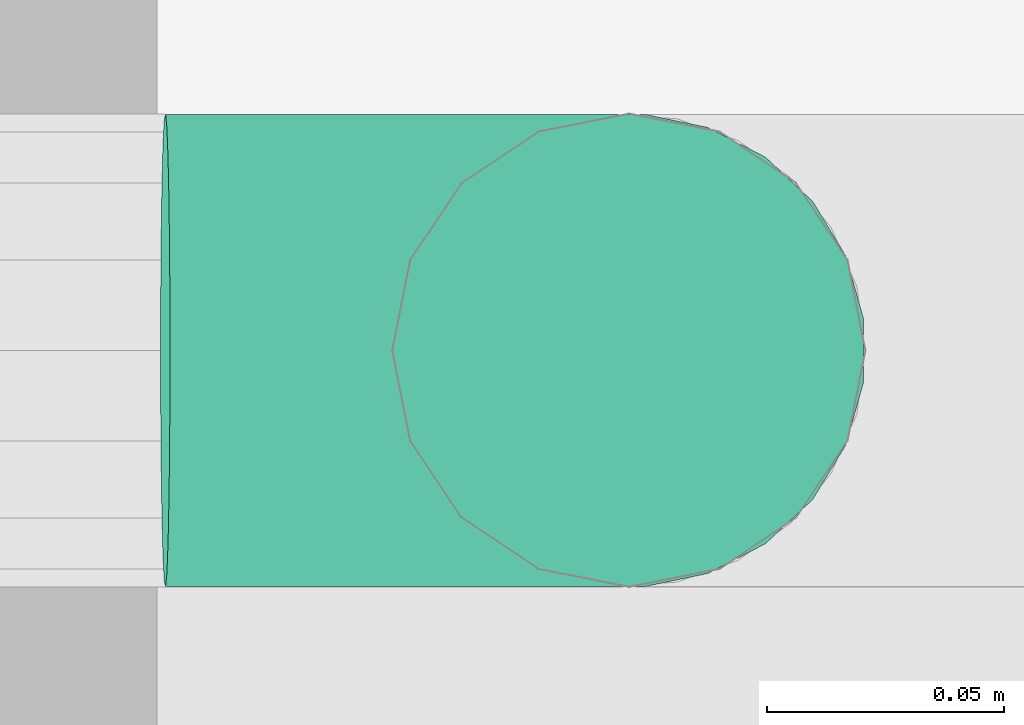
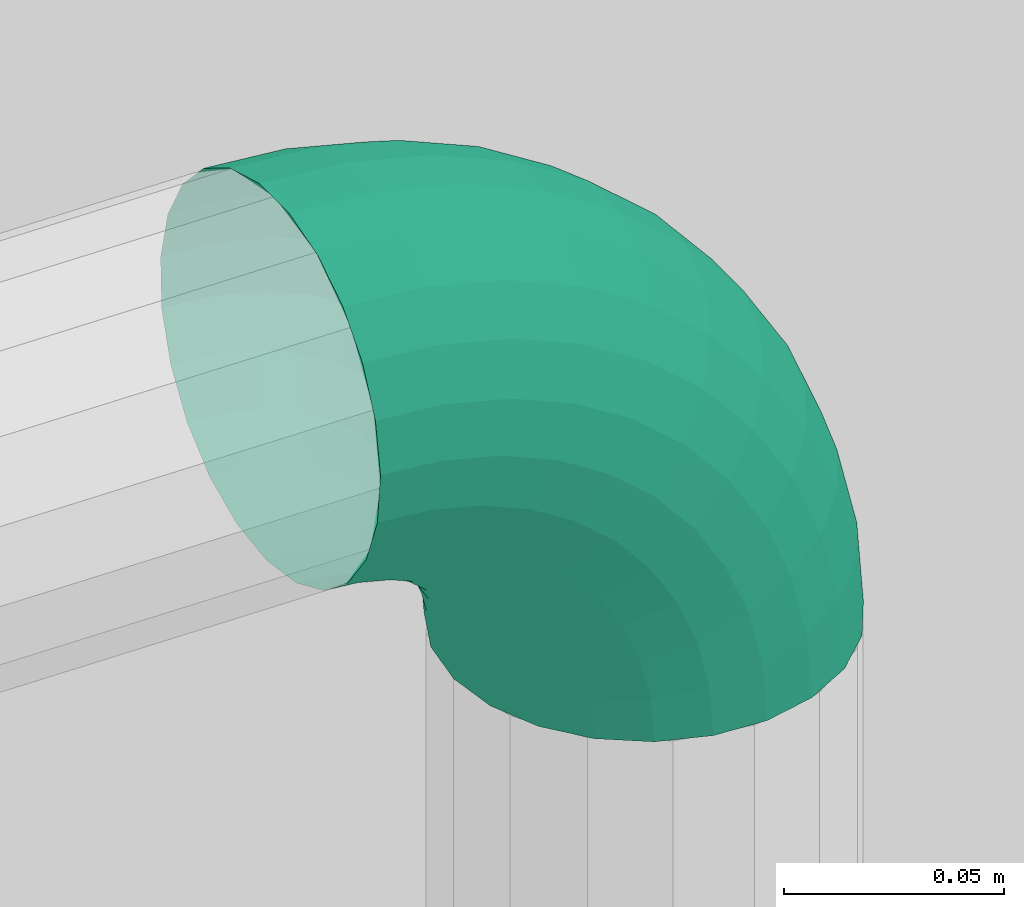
# One storey, part 90 of 106: 1 flow fitting.
"""IFC2X3 building model written with IfcOpenShell, lengths in metres."""

import ifcopenshell
import ifcopenshell.guid

model = None  # the IFC model being written
_history = None  # IfcOwnerHistory: only IFC2X3 demands one
_inside = {}  # id of a spatial element -> (the spatial element, [elements in it])
_under = {}  # id of a project, library or spatial element -> (it, [spatial elements below it])
_declared = {}  # id of a project -> (the project, [libraries it declares])
_typed = {}  # id of a type object -> (the type object, [elements of that type])
_made_of = {}  # id of a material, layer set ... -> (it, [elements and type objects made of it])


def new_model(schema):
    """Start an empty IFC model of exactly this schema.

    Asked for "IFC4X3", IfcOpenShell would pick the latest addendum, in which some entities
    have other attributes; the version numbers below select the first issue.
    IFC2X3 requires an IfcOwnerHistory on every rooted entity: one is made here for all.
    """
    global model, _history
    if schema == "IFC4X3":
        model = ifcopenshell.file(schema_version=(4, 3, 0, 0))
    else:
        model = ifcopenshell.file(schema=schema)
    _inside.clear()
    _under.clear()
    _declared.clear()
    _typed.clear()
    _made_of.clear()
    _history = None
    if model.schema == "IFC2X3":
        org = make("IfcOrganization", Name="unknown")
        user = make(
            "IfcPersonAndOrganization",
            ThePerson=make("IfcPerson", FamilyName="unknown"),
            TheOrganization=org,
        )
        app = make(
            "IfcApplication",
            ApplicationDeveloper=org,
            Version="unknown",
            ApplicationFullName="unknown",
            ApplicationIdentifier="unknown",
        )
        _history = make(
            "IfcOwnerHistory",
            OwningUser=user,
            OwningApplication=app,
            ChangeAction="ADDED",
            CreationDate=0,
        )
    return model


def make(cls, **values):
    """One entity of the class cls with the attributes given. An attribute that is None is left unset."""
    return model.create_entity(
        cls, **{name: value for name, value in values.items() if value is not None}
    )


def entity(cls, *values):
    """Any entity or typed value of the class cls, its attributes in the order of the schema. None: left unset."""
    e = model.create_entity(cls)
    for i, value in enumerate(values):
        if value is not None:
            e[i] = value
    return e


def rooted(cls, **values):
    """An entity with a GlobalId (a new one), such as an element, a storey or a relation."""
    return make(cls, GlobalId=ifcopenshell.guid.new(), OwnerHistory=_history, **values)


def si_unit(unit_type, name, prefix=None):
    """IfcSIUnit, for example si_unit("LENGTHUNIT", "METRE", prefix="MILLI")."""
    return make("IfcSIUnit", UnitType=unit_type, Prefix=prefix, Name=name)


def converted_unit(unit_type, name, factor, base, dimensions=None, offset=None):
    """IfcConversionBasedUnit, such as the inch: factor (a typed value) times the base unit."""
    return make(
        "IfcConversionBasedUnit"
        if offset is None
        else "IfcConversionBasedUnitWithOffset",
        ConversionOffset=offset,
        Dimensions=None
        if dimensions is None
        else entity("IfcDimensionalExponents", *dimensions),
        UnitType=unit_type,
        Name=name,
        ConversionFactor=make(
            "IfcMeasureWithUnit", ValueComponent=factor, UnitComponent=base
        ),
    )


def derived_unit(unit_type, elements):
    """IfcDerivedUnit: a product of units, each with its exponent."""
    return make(
        "IfcDerivedUnit",
        Elements=[
            make("IfcDerivedUnitElement", Unit=unit, Exponent=power)
            for unit, power in elements
        ],
        UnitType=unit_type,
    )


def money_unit(currency):
    """IfcMonetaryUnit."""
    return make("IfcMonetaryUnit", Currency=currency)


def assignment(units):
    """IfcUnitAssignment: the units of a project."""
    return None if units is None else make("IfcUnitAssignment", Units=units)


def point(xyz):
    """IfcCartesianPoint."""
    return None if xyz is None else make("IfcCartesianPoint", Coordinates=xyz)


def direction(xyz):
    """IfcDirection."""
    return None if xyz is None else make("IfcDirection", DirectionRatios=xyz)


def frame(location, z_axis=None, x_axis=None):
    """IfcAxis2Placement3D, a coordinate frame: its origin and axes. An axis left out is left unset."""
    return make(
        "IfcAxis2Placement3D",
        Location=point(location),
        Axis=direction(z_axis),
        RefDirection=direction(x_axis),
    )


def origin_with_axes():
    """The frame at (0, 0, 0) with the z axis (0, 0, 1) and the x axis (1, 0, 0) written out."""
    return frame((0.0, 0.0, 0.0), z_axis=(0.0, 0.0, 1.0), x_axis=(1.0, 0.0, 0.0))


def place(relative_to, where):
    """IfcLocalPlacement: puts the frame where relative to a parent placement (None: the world)."""
    return make(
        "IfcLocalPlacement", PlacementRelTo=relative_to, RelativePlacement=where
    )


def context(
    kind, dimensions, precision=None, world=None, true_north=None, identifier=None
):
    """IfcGeometricRepresentationContext, for example the 3D "Model" context."""
    return make(
        "IfcGeometricRepresentationContext",
        ContextIdentifier=identifier,
        ContextType=kind,
        CoordinateSpaceDimension=dimensions,
        Precision=precision,
        WorldCoordinateSystem=world,
        TrueNorth=true_north,
    )


def subcontext(parent, identifier, kind, view, scale=None):
    """IfcGeometricRepresentationSubContext, for example "Body" below "Model"."""
    return make(
        "IfcGeometricRepresentationSubContext",
        ContextIdentifier=identifier,
        ContextType=kind,
        ParentContext=parent,
        TargetScale=scale,
        TargetView=view,
    )


def project(units=None, contexts=None):
    """IfcProject with its units and contexts."""
    return rooted(
        "IfcProject",
        Name="project",
        RepresentationContexts=contexts,
        UnitsInContext=assignment(units),
    )


def spatial(cls, under=None, at=None, **own):
    """A site, building, storey or space (cls), placed at a placement, below another one or the project."""
    s = rooted(cls, ObjectPlacement=at, **own)
    if under is not None:
        _under.setdefault(under.id(), (under, []))[1].append(s)
    return s


def faces_of(points, faces, orient=None, outer=None):
    """IfcFace entities. A face is a list of loops; a loop is a list of indices into points, from 0.

    orient and outer hold one flag for each loop. By default every Orientation is true, the
    first loop of a face is its IfcFaceOuterBound and the others are IfcFaceBound.
    """
    made = []
    for i, loops in enumerate(faces):
        bounds = []
        for j, loop in enumerate(loops):
            is_outer = j == 0 if outer is None else outer[i][j]
            bounds.append(
                make(
                    "IfcFaceOuterBound" if is_outer else "IfcFaceBound",
                    Bound=make("IfcPolyLoop", Polygon=[points[k] for k in loop]),
                    Orientation=True if orient is None else orient[i][j],
                )
            )
        made.append(make("IfcFace", Bounds=bounds))
    return made


def open_shell(faces, orient=None, outer=None):
    """The faces of one IfcOpenShell. surface_model builds it on its shared points."""
    return ("IfcOpenShell", faces, orient, outer)


def surface_model(cls, points, shells):
    """IfcFaceBasedSurfaceModel or IfcShellBasedSurfaceModel (cls): surfaces that need not close."""
    shared = [point(p) for p in points]
    made = [make(c, CfsFaces=faces_of(shared, fs, o, b)) for c, fs, o, b in shells]
    if cls == "IfcFaceBasedSurfaceModel":
        return make(cls, FbsmFaces=made)
    return make(cls, SbsmBoundary=made)


def shape(context_of_items, identifier, shape_type, items):
    """IfcShapeRepresentation: the items that make up one representation, for example the "Body"."""
    return make(
        "IfcShapeRepresentation",
        ContextOfItems=context_of_items,
        RepresentationIdentifier=identifier,
        RepresentationType=shape_type,
        Items=items,
    )


def material(Name=None, Category=None):
    """IfcMaterial."""
    return make("IfcMaterial", Name=Name, Category=Category)


def made_of(thing, what):
    """Note that an element or type object is made of a material, layer set ...; save() writes the relation."""
    if what is not None:
        _made_of.setdefault(what.id(), (what, []))[1].append(thing)
    return thing


def type_object(cls, material=None, **own):
    """A type object (cls), such as IfcWallType, which elements share."""
    return made_of(rooted(cls, **own), material)


def element(
    cls,
    number,
    at=None,
    inside=None,
    cuts=None,
    type_object=None,
    material=None,
    context=None,
    identifier="Body",
    shape_type=None,
    held_by="IfcProductDefinitionShape",
    body=None,
    shapes=None,
    **own,
):
    """One element of the class cls, such as IfcWall. Its Tag is "e" and its number.

    at: its placement. inside: the storey or other place that contains it. cuts: it is an
    opening in that element (IfcRelVoidsElement). A single representation is given by context,
    identifier, shape_type and body (its items); several are given by shapes. held_by: the class
    of the entity that holds the representations. save() writes the other relations.
    """
    e = rooted(cls, Tag="e%d" % number, ObjectPlacement=at, **own)
    if body is not None:
        shapes = [shape(context, identifier, shape_type, body)]
    if shapes is not None:
        e.Representation = make(held_by, Representations=shapes)
    if inside is not None:
        _inside.setdefault(inside.id(), (inside, []))[1].append(e)
    if cuts is not None:
        rooted(
            "IfcRelVoidsElement", RelatingBuildingElement=cuts, RelatedOpeningElement=e
        )
    if type_object is not None:
        _typed.setdefault(type_object.id(), (type_object, []))[1].append(e)
    return made_of(e, material)


def aggregate(whole, parts):
    """IfcRelAggregates: a whole, such as a stair, and the parts it consists of."""
    return rooted("IfcRelAggregates", RelatingObject=whole, RelatedObjects=parts)


def save(model, path):
    """Write the relations noted so far, then the file.

    IfcRelAggregates (storeys below a building ...), IfcRelContainedInSpatialStructure (elements
    in a storey), IfcRelDefinesByType, IfcRelAssociatesMaterial and IfcRelDeclares: one each for
    every whole, place, type object, material and project.
    """
    for whole, parts in _under.values():
        aggregate(whole, parts)
    for where, things in _inside.values():
        rooted(
            "IfcRelContainedInSpatialStructure",
            RelatedElements=things,
            RelatingStructure=where,
        )
    for kind, things in _typed.values():
        rooted("IfcRelDefinesByType", RelatedObjects=things, RelatingType=kind)
    for what, things in _made_of.values():
        rooted("IfcRelAssociatesMaterial", RelatedObjects=things, RelatingMaterial=what)
    for by, libraries in _declared.values():
        rooted("IfcRelDeclares", RelatingContext=by, RelatedDefinitions=libraries)
    model.write(path)


model = new_model("IFC2X3")

# Units and contexts
model_context = context("Model", 3, precision=1e-05, world=origin_with_axes(), true_north=direction((0.0, 1.0)))
body_context = subcontext(model_context, "Body", "Model", "MODEL_VIEW", scale=1.0)
ifc_project = project(units=[si_unit("LENGTHUNIT", "METRE"), si_unit("AREAUNIT", "SQUARE_METRE"), si_unit("VOLUMEUNIT", "CUBIC_METRE"), si_unit("ABSORBEDDOSEUNIT", "GRAY"), si_unit("AMOUNTOFSUBSTANCEUNIT", "MOLE"), si_unit("DOSEEQUIVALENTUNIT", "SIEVERT"), si_unit("ELECTRICCAPACITANCEUNIT", "FARAD"), si_unit("ELECTRICCHARGEUNIT", "COULOMB"), si_unit("ELECTRICCONDUCTANCEUNIT", "SIEMENS"), si_unit("ELECTRICCURRENTUNIT", "AMPERE"), si_unit("ELECTRICRESISTANCEUNIT", "OHM"), si_unit("ELECTRICVOLTAGEUNIT", "VOLT"), si_unit("ENERGYUNIT", "JOULE"), si_unit("FORCEUNIT", "NEWTON"), si_unit("FREQUENCYUNIT", "HERTZ"), si_unit("ILLUMINANCEUNIT", "LUX"), si_unit("INDUCTANCEUNIT", "HENRY"), si_unit("LUMINOUSFLUXUNIT", "LUMEN"), si_unit("LUMINOUSINTENSITYUNIT", "CANDELA"), si_unit("MAGNETICFLUXDENSITYUNIT", "TESLA"), si_unit("MAGNETICFLUXUNIT", "WEBER"), si_unit("MASSUNIT", "GRAM"), converted_unit("PLANEANGLEUNIT", "degree", entity("IfcReal", 0.0174532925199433), si_unit("PLANEANGLEUNIT", "RADIAN"), dimensions=[0, 0, 0, 0, 0, 0, 0]), si_unit("POWERUNIT", "WATT"), si_unit("PRESSUREUNIT", "PASCAL"), si_unit("RADIOACTIVITYUNIT", "BECQUEREL"), si_unit("SOLIDANGLEUNIT", "STERADIAN"), si_unit("THERMODYNAMICTEMPERATUREUNIT", "KELVIN"), si_unit("TIMEUNIT", "SECOND"), derived_unit("ACCELERATIONUNIT", [(si_unit("LENGTHUNIT", "METRE"), 1), (si_unit("TIMEUNIT", "SECOND"), -2)]), derived_unit("ANGULARVELOCITYUNIT", [(converted_unit("PLANEANGLEUNIT", "degree", entity("IfcReal", 0.0174532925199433), si_unit("PLANEANGLEUNIT", "RADIAN"), dimensions=[0, 0, 0, 0, 0, 0, 0]), 1), (si_unit("TIMEUNIT", "SECOND"), -1)]), derived_unit("CURVATUREUNIT", [(converted_unit("PLANEANGLEUNIT", "degree", entity("IfcReal", 0.0174532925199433), si_unit("PLANEANGLEUNIT", "RADIAN"), dimensions=[0, 0, 0, 0, 0, 0, 0]), 1), (si_unit("LENGTHUNIT", "METRE"), -1)]), derived_unit("DYNAMICVISCOSITYUNIT", [(si_unit("PRESSUREUNIT", "PASCAL"), 1), (si_unit("TIMEUNIT", "SECOND"), 1)]), derived_unit("HEATFLUXDENSITYUNIT", [(si_unit("POWERUNIT", "WATT"), 1), (si_unit("LENGTHUNIT", "METRE"), -2)]), derived_unit("HEATINGVALUEUNIT", [(si_unit("ENERGYUNIT", "JOULE"), 1), (si_unit("MASSUNIT", "GRAM"), -1)]), derived_unit("INTEGERCOUNTRATEUNIT", [(si_unit("TIMEUNIT", "SECOND"), -1)]), derived_unit("IONCONCENTRATIONUNIT", [(si_unit("MASSUNIT", "GRAM"), 1), (si_unit("VOLUMEUNIT", "CUBIC_METRE"), -1)]), derived_unit("ISOTHERMALMOISTURECAPACITYUNIT", [(si_unit("VOLUMEUNIT", "CUBIC_METRE"), 1), (si_unit("MASSUNIT", "GRAM"), -1)]), derived_unit("KINEMATICVISCOSITYUNIT", [(si_unit("AREAUNIT", "SQUARE_METRE"), 1), (si_unit("TIMEUNIT", "SECOND"), -1)]), derived_unit("LINEARFORCEUNIT", [(si_unit("FORCEUNIT", "NEWTON"), 1), (si_unit("LENGTHUNIT", "METRE"), -1)]), derived_unit("LINEARMOMENTUNIT", [(si_unit("FORCEUNIT", "NEWTON"), 1), (si_unit("LENGTHUNIT", "METRE"), -1)]), derived_unit("LINEARSTIFFNESSUNIT", [(si_unit("FORCEUNIT", "NEWTON"), 1), (si_unit("LENGTHUNIT", "METRE"), -1)]), derived_unit("LINEARVELOCITYUNIT", [(si_unit("LENGTHUNIT", "METRE"), 1), (si_unit("TIMEUNIT", "SECOND"), -1)]), derived_unit("LUMINOUSINTENSITYDISTRIBUTIONUNIT", [(si_unit("LUMINOUSINTENSITYUNIT", "CANDELA"), 1), (si_unit("LUMINOUSFLUXUNIT", "LUMEN"), -1)]), derived_unit("MASSDENSITYUNIT", [(si_unit("MASSUNIT", "GRAM"), 1), (si_unit("VOLUMEUNIT", "CUBIC_METRE"), -1)]), derived_unit("MASSFLOWRATEUNIT", [(si_unit("MASSUNIT", "GRAM"), 1), (si_unit("TIMEUNIT", "SECOND"), -1)]), derived_unit("MASSPERLENGTHUNIT", [(si_unit("MASSUNIT", "GRAM"), 1), (si_unit("LENGTHUNIT", "METRE"), -1)]), derived_unit("MODULUSOFELASTICITYUNIT", [(si_unit("FORCEUNIT", "NEWTON"), 1), (si_unit("AREAUNIT", "SQUARE_METRE"), -1)]), derived_unit("MODULUSOFLINEARSUBGRADEREACTIONUNIT", [(si_unit("FORCEUNIT", "NEWTON"), 1), (si_unit("LENGTHUNIT", "METRE"), -2)]), derived_unit("MODULUSOFROTATIONALSUBGRADEREACTIONUNIT", [(si_unit("FORCEUNIT", "NEWTON"), 1), (si_unit("LENGTHUNIT", "METRE"), 1)]), derived_unit("MODULUSOFSUBGRADEREACTIONUNIT", [(si_unit("FORCEUNIT", "NEWTON"), 1), (si_unit("VOLUMEUNIT", "CUBIC_METRE"), -1)]), derived_unit("MOISTUREDIFFUSIVITYUNIT", [(si_unit("VOLUMEUNIT", "CUBIC_METRE"), 1), (si_unit("TIMEUNIT", "SECOND"), -1)]), derived_unit("MOLECULARWEIGHTUNIT", [(si_unit("MASSUNIT", "GRAM"), 1), (si_unit("AMOUNTOFSUBSTANCEUNIT", "MOLE"), -1)]), derived_unit("PLANARFORCEUNIT", [(si_unit("FORCEUNIT", "NEWTON"), 1), (si_unit("LENGTHUNIT", "METRE"), -2)]), derived_unit("ROTATIONALFREQUENCYUNIT", [(si_unit("TIMEUNIT", "SECOND"), -1)]), derived_unit("ROTATIONALMASSUNIT", [(si_unit("MASSUNIT", "GRAM"), 1), (si_unit("LENGTHUNIT", "METRE"), 2)]), derived_unit("ROTATIONALSTIFFNESSUNIT", [(si_unit("FORCEUNIT", "NEWTON"), 1), (si_unit("LENGTHUNIT", "METRE"), 1), (converted_unit("PLANEANGLEUNIT", "degree", entity("IfcReal", 0.0174532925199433), si_unit("PLANEANGLEUNIT", "RADIAN"), dimensions=[0, 0, 0, 0, 0, 0, 0]), -1)]), derived_unit("SECTIONAREAINTEGRALUNIT", [(si_unit("LENGTHUNIT", "METRE"), 5)]), derived_unit("SECTIONMODULUSUNIT", [(si_unit("LENGTHUNIT", "METRE"), 3)]), derived_unit("SHEARMODULUSUNIT", [(si_unit("FORCEUNIT", "NEWTON"), 1), (si_unit("AREAUNIT", "SQUARE_METRE"), -1)]), derived_unit("SOUNDPOWERUNIT", [(si_unit("ENERGYUNIT", "JOULE"), 1), (si_unit("TIMEUNIT", "SECOND"), -1)]), derived_unit("SPECIFICHEATCAPACITYUNIT", [(si_unit("FORCEUNIT", "NEWTON"), 1), (si_unit("MASSUNIT", "GRAM"), -1), (si_unit("THERMODYNAMICTEMPERATUREUNIT", "KELVIN"), -1)]), derived_unit("TEMPERATUREGRADIENTUNIT", [(si_unit("THERMODYNAMICTEMPERATUREUNIT", "KELVIN"), 1), (si_unit("LENGTHUNIT", "METRE"), -1)]), derived_unit("THERMALADMITTANCEUNIT", [(si_unit("POWERUNIT", "WATT"), 1), (si_unit("AREAUNIT", "SQUARE_METRE"), -1), (si_unit("THERMODYNAMICTEMPERATUREUNIT", "KELVIN"), -1)]), derived_unit("THERMALCONDUCTANCEUNIT", [(si_unit("POWERUNIT", "WATT"), 1), (si_unit("LENGTHUNIT", "METRE"), -1), (si_unit("THERMODYNAMICTEMPERATUREUNIT", "KELVIN"), -1)]), derived_unit("THERMALEXPANSIONCOEFFICIENTUNIT", [(si_unit("THERMODYNAMICTEMPERATUREUNIT", "KELVIN"), -1)]), derived_unit("THERMALRESISTANCEUNIT", [(si_unit("AREAUNIT", "SQUARE_METRE"), 1), (si_unit("POWERUNIT", "WATT"), -1)]), derived_unit("THERMALTRANSMITTANCEUNIT", [(si_unit("POWERUNIT", "WATT"), 1), (si_unit("AREAUNIT", "SQUARE_METRE"), -1), (si_unit("THERMODYNAMICTEMPERATUREUNIT", "KELVIN"), -1)]), derived_unit("TORQUEUNIT", [(si_unit("FORCEUNIT", "NEWTON"), 1), (si_unit("LENGTHUNIT", "METRE"), 1)]), derived_unit("VAPORPERMEABILITYUNIT", [(si_unit("MASSUNIT", "GRAM"), 1), (si_unit("TIMEUNIT", "SECOND"), -1)]), derived_unit("VOLUMETRICFLOWRATEUNIT", [(si_unit("VOLUMEUNIT", "CUBIC_METRE"), 1), (si_unit("TIMEUNIT", "SECOND"), -1)]), derived_unit("WARPINGCONSTANTUNIT", [(si_unit("LENGTHUNIT", "METRE"), 6)]), derived_unit("WARPINGMOMENTUNIT", [(si_unit("FORCEUNIT", "NEWTON"), 1), (si_unit("LENGTHUNIT", "METRE"), 2)]), money_unit("GBP")], contexts=[model_context])

# Site, building, storey
site_placement = place(None, origin_with_axes())
site = spatial("IfcSite", under=ifc_project, at=site_placement, Name="Site", CompositionType="ELEMENT")
building_placement = place(site_placement, origin_with_axes())
building = spatial("IfcBuilding", under=site, at=building_placement, Name="Building01", CompositionType="ELEMENT")
storey_placement = place(building_placement, origin_with_axes())
storey = spatial("IfcBuildingStorey", under=building, at=storey_placement, Name="GF", CompositionType="ELEMENT", Elevation=0.0)

# Flow fitting
ifc_material = material(Name="M_BSUK_ColdWater")
pipe_fitting_type = type_object("IfcPipeFittingType", Name="M-BmpElbow-DefaultElbow", PredefinedType="BEND")
flow_fitting_placement = place(storey_placement, frame((9.445038, 14.95, 6.242043), z_axis=(0.01999682, 0.0, 0.99980004), x_axis=(-0.99980004, 0.0, 0.01999682)))
element("IfcFlowFitting", 1, at=flow_fitting_placement, inside=storey, type_object=pipe_fitting_type, material=ifc_material, Name="M-BmpElbow-DefaultElbow", ObjectType="M-BmpElbow-DefaultElbow", context=body_context, shape_type="SurfaceModel", body=[
    surface_model("IfcShellBasedSurfaceModel", [(-0.008009, -0.01349, -0.048768), (0.0, -0.01349, -0.048146), (0.0, 0.0, -0.05), (-0.007723, 0.0, -0.0506), (-0.015826, -0.01349, -0.05062), (-0.015261, 0.0, -0.052386), (-0.023264, -0.01349, -0.053657), (-0.022432, 0.0, -0.055314), (-0.030143, -0.01349, -0.057807), (-0.029065, 0.0, -0.059315), (-0.036298, -0.01349, -0.062969), (-0.035, 0.0, -0.064293), (-0.041582, -0.01349, -0.06902), (-0.040095, 0.0, -0.070127), (-0.045868, -0.01349, -0.075814), (-0.044228, 0.0, -0.076679), (-0.049054, -0.01349, -0.083189), (-0.0473, 0.0, -0.08379), (-0.051061, -0.01349, -0.090968), (-0.049236, 0.0, -0.091291), (-0.051844, -0.01349, -0.098963), (-0.04999, 0.0, -0.099), (-0.008847, -0.025979, -0.043408), (0.0, -0.025979, -0.042721), (-0.017482, -0.025979, -0.045454), (-0.025697, -0.025979, -0.048809), (-0.033296, -0.025979, -0.053392), (-0.040095, -0.025979, -0.059095), (-0.045932, -0.025979, -0.065779), (-0.050667, -0.025979, -0.073284), (-0.054185, -0.025979, -0.081431), (-0.056403, -0.025979, -0.090023), (-0.057268, -0.025979, -0.098855), (-0.010175, -0.036542, -0.034918), (0.0, -0.036542, -0.034128), (-0.020105, -0.036542, -0.037271), (-0.029553, -0.036542, -0.041129), (-0.038291, -0.036542, -0.0464), (-0.046111, -0.036542, -0.052958), (-0.052823, -0.036542, -0.060645), (-0.058268, -0.036542, -0.069276), (-0.062315, -0.036542, -0.078645), (-0.064865, -0.036542, -0.088526), (-0.065859, -0.036542, -0.098683), (-0.011893, -0.044394, -0.023927), (0.0, -0.044394, -0.023003), (-0.0235, -0.044394, -0.026677), (-0.034544, -0.044394, -0.031187), (-0.044758, -0.044394, -0.037348), (-0.053898, -0.044394, -0.045013), (-0.061744, -0.044394, -0.053998), (-0.068109, -0.044394, -0.064087), (-0.072838, -0.044394, -0.075038), (-0.07582, -0.044394, -0.086588), (-0.076981, -0.044394, -0.09846), (-0.013875, -0.048954, -0.011251), (0.0, -0.048954, -0.010173), (-0.027416, -0.048954, -0.014459), (-0.0403, -0.048954, -0.01972), (-0.052216, -0.048954, -0.026908), (-0.062879, -0.048954, -0.035851), (-0.072033, -0.048954, -0.046333), (-0.079458, -0.048954, -0.058103), (-0.084976, -0.048954, -0.070879), (-0.088454, -0.048954, -0.084353), (-0.089809, -0.048954, -0.098204), (-0.015973, -0.049883, 0.002171), (0.0, -0.049883, 0.003412), (-0.031562, -0.049883, -0.001522), (-0.046394, -0.049883, -0.007579), (-0.060113, -0.049883, -0.015854), (-0.072389, -0.049883, -0.026149), (-0.082927, -0.049883, -0.038216), (-0.091475, -0.049883, -0.051767), (-0.097827, -0.049883, -0.066475), (-0.101831, -0.049883, -0.081987), (-0.103391, -0.049883, -0.097932), (-0.018032, -0.047113, 0.015343), (0.0, -0.047113, 0.016744), (-0.035632, -0.047113, 0.011174), (-0.052376, -0.047113, 0.004336), (-0.067863, -0.047113, -0.005006), (-0.081721, -0.047113, -0.016628), (-0.093618, -0.047113, -0.030251), (-0.103268, -0.047113, -0.045548), (-0.110439, -0.047113, -0.062153), (-0.114959, -0.047113, -0.079665), (-0.116721, -0.047113, -0.097665), (-0.0199, -0.040848, 0.027288), (0.0, -0.040848, 0.028834), (-0.039322, -0.040848, 0.022687), (-0.0578, -0.040848, 0.015141), (-0.074891, -0.040848, 0.004831), (-0.090184, -0.040848, -0.007994), (-0.103313, -0.040848, -0.023028), (-0.113962, -0.040848, -0.039909), (-0.121876, -0.040848, -0.058233), (-0.126865, -0.040848, -0.077559), (-0.128808, -0.040848, -0.097424), (-0.021437, -0.031554, 0.03712), (0.0, -0.031554, 0.038786), (-0.042359, -0.031554, 0.032163), (-0.062264, -0.031554, 0.024035), (-0.080675, -0.031554, 0.012929), (-0.09715, -0.031554, -0.000887), (-0.111293, -0.031554, -0.017083), (-0.122765, -0.031554, -0.035268), (-0.13129, -0.031554, -0.055007), (-0.136664, -0.031554, -0.075826), (-0.138758, -0.031554, -0.097225), (-0.022529, -0.01992, 0.04411), (0.0, -0.01992, 0.045861), (-0.044518, -0.01992, 0.038901), (-0.065438, -0.01992, 0.030358), (-0.084788, -0.01992, 0.018686), (-0.102103, -0.01992, 0.004165), (-0.116966, -0.01992, -0.012856), (-0.129023, -0.01992, -0.031968), (-0.137983, -0.01992, -0.052713), (-0.143631, -0.01992, -0.074593), (-0.145831, -0.01992, -0.097083), (-0.023097, -0.006808, 0.04774), (0.0, -0.006808, 0.049534), (-0.045639, -0.006808, 0.042399), (-0.067087, -0.006808, 0.033641), (-0.086924, -0.006808, 0.021675), (-0.104674, -0.006808, 0.006789), (-0.119912, -0.006808, -0.010661), (-0.132273, -0.006808, -0.030254), (-0.141458, -0.006808, -0.051522), (-0.147248, -0.006808, -0.073953), (-0.149504, -0.006808, -0.09701), (-0.023097, 0.006808, 0.04774), (0.0, 0.006808, 0.049534), (-0.045639, 0.006808, 0.042399), (-0.067087, 0.006808, 0.033641), (-0.086924, 0.006808, 0.021675), (-0.104674, 0.006808, 0.006789), (-0.119912, 0.006808, -0.010661), (-0.132273, 0.006808, -0.030254), (-0.141458, 0.006808, -0.051522), (-0.147248, 0.006808, -0.073953), (-0.149504, 0.006808, -0.09701), (-0.022529, 0.01992, 0.04411), (0.0, 0.01992, 0.045861), (-0.044518, 0.01992, 0.038901), (-0.065438, 0.01992, 0.030358), (-0.084788, 0.01992, 0.018686), (-0.102103, 0.01992, 0.004165), (-0.116966, 0.01992, -0.012856), (-0.129023, 0.01992, -0.031968), (-0.137983, 0.01992, -0.052713), (-0.143631, 0.01992, -0.074593), (-0.145831, 0.01992, -0.097083), (-0.021437, 0.031554, 0.03712), (0.0, 0.031554, 0.038786), (-0.042359, 0.031554, 0.032163), (-0.062264, 0.031554, 0.024035), (-0.080675, 0.031554, 0.012929), (-0.09715, 0.031554, -0.000887), (-0.111293, 0.031554, -0.017083), (-0.122765, 0.031554, -0.035268), (-0.13129, 0.031554, -0.055007), (-0.136664, 0.031554, -0.075826), (-0.138758, 0.031554, -0.097225), (-0.0199, 0.040848, 0.027288), (0.0, 0.040848, 0.028834), (-0.039322, 0.040848, 0.022687), (-0.0578, 0.040848, 0.015141), (-0.074891, 0.040848, 0.004831), (-0.090184, 0.040848, -0.007994), (-0.103313, 0.040848, -0.023028), (-0.113962, 0.040848, -0.039909), (-0.121876, 0.040848, -0.058233), (-0.126865, 0.040848, -0.077559), (-0.128808, 0.040848, -0.097424), (-0.018032, 0.047113, 0.015343), (0.0, 0.047113, 0.016744), (-0.035632, 0.047113, 0.011174), (-0.052376, 0.047113, 0.004336), (-0.067863, 0.047113, -0.005006), (-0.081721, 0.047113, -0.016628), (-0.093618, 0.047113, -0.030251), (-0.103268, 0.047113, -0.045548), (-0.110439, 0.047113, -0.062153), (-0.114959, 0.047113, -0.079665), (-0.116721, 0.047113, -0.097665), (-0.015973, 0.049883, 0.002171), (0.0, 0.049883, 0.003412), (-0.031562, 0.049883, -0.001522), (-0.046394, 0.049883, -0.007579), (-0.060113, 0.049883, -0.015854), (-0.072389, 0.049883, -0.026149), (-0.082927, 0.049883, -0.038216), (-0.091475, 0.049883, -0.051767), (-0.097827, 0.049883, -0.066475), (-0.101831, 0.049883, -0.081987), (-0.103391, 0.049883, -0.097932), (-0.013875, 0.048954, -0.011251), (0.0, 0.048954, -0.010173), (-0.027416, 0.048954, -0.014459), (-0.0403, 0.048954, -0.01972), (-0.052216, 0.048954, -0.026908), (-0.062879, 0.048954, -0.035851), (-0.072033, 0.048954, -0.046333), (-0.079458, 0.048954, -0.058103), (-0.084976, 0.048954, -0.070879), (-0.088454, 0.048954, -0.084353), (-0.089809, 0.048954, -0.098204), (-0.011893, 0.044394, -0.023927), (0.0, 0.044394, -0.023003), (-0.0235, 0.044394, -0.026677), (-0.034544, 0.044394, -0.031187), (-0.044758, 0.044394, -0.037348), (-0.053898, 0.044394, -0.045013), (-0.061744, 0.044394, -0.053998), (-0.068109, 0.044394, -0.064087), (-0.072838, 0.044394, -0.075038), (-0.07582, 0.044394, -0.086588), (-0.076981, 0.044394, -0.09846), (-0.010175, 0.036542, -0.034918), (0.0, 0.036542, -0.034128), (-0.020105, 0.036542, -0.037271), (-0.029553, 0.036542, -0.041129), (-0.038291, 0.036542, -0.0464), (-0.046111, 0.036542, -0.052958), (-0.052823, 0.036542, -0.060645), (-0.058268, 0.036542, -0.069276), (-0.062315, 0.036542, -0.078645), (-0.064865, 0.036542, -0.088526), (-0.065859, 0.036542, -0.098683), (-0.008847, 0.025979, -0.043408), (0.0, 0.025979, -0.042721), (-0.017482, 0.025979, -0.045454), (-0.025697, 0.025979, -0.048809), (-0.033296, 0.025979, -0.053392), (-0.040095, 0.025979, -0.059095), (-0.045932, 0.025979, -0.065779), (-0.050667, 0.025979, -0.073284), (-0.054185, 0.025979, -0.081431), (-0.056403, 0.025979, -0.090023), (-0.057268, 0.025979, -0.098855), (-0.008009, 0.01349, -0.048768), (0.0, 0.01349, -0.048146), (-0.015826, 0.01349, -0.05062), (-0.023264, 0.01349, -0.053657), (-0.030143, 0.01349, -0.057807), (-0.036298, 0.01349, -0.062969), (-0.041582, 0.01349, -0.06902), (-0.045868, 0.01349, -0.075814), (-0.049054, 0.01349, -0.083189), (-0.051061, 0.01349, -0.090968), (-0.051844, 0.01349, -0.098963)], [open_shell([[[0, 1, 2, 3]], [[4, 0, 3, 5]], [[6, 4, 5, 7]], [[8, 6, 7, 9]], [[10, 8, 9, 11]], [[12, 10, 11, 13]], [[14, 12, 13, 15]], [[16, 14, 15, 17]], [[18, 16, 17, 19]], [[20, 18, 19, 21]], [[22, 23, 1, 0]], [[24, 22, 0, 4]], [[25, 24, 4, 6]], [[26, 25, 6, 8]], [[27, 26, 8, 10]], [[28, 27, 10, 12]], [[29, 28, 12, 14]], [[30, 29, 14, 16]], [[31, 30, 16, 18]], [[32, 31, 18, 20]], [[33, 34, 23, 22]], [[35, 33, 22, 24]], [[36, 35, 24, 25]], [[37, 36, 25, 26]], [[38, 37, 26, 27]], [[39, 38, 27, 28]], [[40, 39, 28, 29]], [[41, 40, 29, 30]], [[42, 41, 30, 31]], [[43, 42, 31, 32]], [[44, 45, 34, 33]], [[46, 44, 33, 35]], [[47, 46, 35, 36]], [[48, 47, 36, 37]], [[49, 48, 37, 38]], [[50, 49, 38, 39]], [[51, 50, 39, 40]], [[52, 51, 40, 41]], [[53, 52, 41, 42]], [[54, 53, 42, 43]], [[55, 56, 45, 44]], [[57, 55, 44, 46]], [[58, 57, 46, 47]], [[59, 58, 47, 48]], [[60, 59, 48, 49]], [[61, 60, 49, 50]], [[62, 61, 50, 51]], [[63, 62, 51, 52]], [[64, 63, 52, 53]], [[65, 64, 53, 54]], [[66, 67, 56, 55]], [[68, 66, 55, 57]], [[69, 68, 57, 58]], [[70, 69, 58, 59]], [[71, 70, 59, 60]], [[72, 71, 60, 61]], [[73, 72, 61, 62]], [[74, 73, 62, 63]], [[75, 74, 63, 64]], [[76, 75, 64, 65]], [[77, 78, 67, 66]], [[79, 77, 66, 68]], [[80, 79, 68, 69]], [[81, 80, 69, 70]], [[82, 81, 70, 71]], [[83, 82, 71, 72]], [[84, 83, 72, 73]], [[85, 84, 73, 74]], [[86, 85, 74, 75]], [[87, 86, 75, 76]], [[88, 89, 78, 77]], [[90, 88, 77, 79]], [[91, 90, 79, 80]], [[92, 91, 80, 81]], [[93, 92, 81, 82]], [[94, 93, 82, 83]], [[95, 94, 83, 84]], [[96, 95, 84, 85]], [[97, 96, 85, 86]], [[98, 97, 86, 87]], [[99, 100, 89, 88]], [[101, 99, 88, 90]], [[102, 101, 90, 91]], [[103, 102, 91, 92]], [[104, 103, 92, 93]], [[105, 104, 93, 94]], [[106, 105, 94, 95]], [[107, 106, 95, 96]], [[108, 107, 96, 97]], [[109, 108, 97, 98]], [[110, 111, 100, 99]], [[112, 110, 99, 101]], [[113, 112, 101, 102]], [[114, 113, 102, 103]], [[115, 114, 103, 104]], [[116, 115, 104, 105]], [[117, 116, 105, 106]], [[118, 117, 106, 107]], [[119, 118, 107, 108]], [[120, 119, 108, 109]], [[121, 122, 111, 110]], [[123, 121, 110, 112]], [[124, 123, 112, 113]], [[125, 124, 113, 114]], [[126, 125, 114, 115]], [[127, 126, 115, 116]], [[128, 127, 116, 117]], [[129, 128, 117, 118]], [[130, 129, 118, 119]], [[131, 130, 119, 120]], [[132, 133, 122, 121]], [[134, 132, 121, 123]], [[135, 134, 123, 124]], [[136, 135, 124, 125]], [[137, 136, 125, 126]], [[138, 137, 126, 127]], [[139, 138, 127, 128]], [[140, 139, 128, 129]], [[141, 140, 129, 130]], [[142, 141, 130, 131]], [[143, 144, 133, 132]], [[145, 143, 132, 134]], [[146, 145, 134, 135]], [[147, 146, 135, 136]], [[148, 147, 136, 137]], [[149, 148, 137, 138]], [[150, 149, 138, 139]], [[151, 150, 139, 140]], [[152, 151, 140, 141]], [[153, 152, 141, 142]], [[154, 155, 144, 143]], [[156, 154, 143, 145]], [[157, 156, 145, 146]], [[158, 157, 146, 147]], [[159, 158, 147, 148]], [[160, 159, 148, 149]], [[161, 160, 149, 150]], [[162, 161, 150, 151]], [[163, 162, 151, 152]], [[164, 163, 152, 153]], [[165, 166, 155, 154]], [[167, 165, 154, 156]], [[168, 167, 156, 157]], [[169, 168, 157, 158]], [[170, 169, 158, 159]], [[171, 170, 159, 160]], [[172, 171, 160, 161]], [[173, 172, 161, 162]], [[174, 173, 162, 163]], [[175, 174, 163, 164]], [[176, 177, 166, 165]], [[178, 176, 165, 167]], [[179, 178, 167, 168]], [[180, 179, 168, 169]], [[181, 180, 169, 170]], [[182, 181, 170, 171]], [[183, 182, 171, 172]], [[184, 183, 172, 173]], [[185, 184, 173, 174]], [[186, 185, 174, 175]], [[187, 188, 177, 176]], [[189, 187, 176, 178]], [[190, 189, 178, 179]], [[191, 190, 179, 180]], [[192, 191, 180, 181]], [[193, 192, 181, 182]], [[194, 193, 182, 183]], [[195, 194, 183, 184]], [[196, 195, 184, 185]], [[197, 196, 185, 186]], [[198, 199, 188, 187]], [[200, 198, 187, 189]], [[201, 200, 189, 190]], [[202, 201, 190, 191]], [[203, 202, 191, 192]], [[204, 203, 192, 193]], [[205, 204, 193, 194]], [[206, 205, 194, 195]], [[207, 206, 195, 196]], [[208, 207, 196, 197]], [[209, 210, 199, 198]], [[211, 209, 198, 200]], [[212, 211, 200, 201]], [[213, 212, 201, 202]], [[214, 213, 202, 203]], [[215, 214, 203, 204]], [[216, 215, 204, 205]], [[217, 216, 205, 206]], [[218, 217, 206, 207]], [[219, 218, 207, 208]], [[220, 221, 210, 209]], [[222, 220, 209, 211]], [[223, 222, 211, 212]], [[224, 223, 212, 213]], [[225, 224, 213, 214]], [[226, 225, 214, 215]], [[227, 226, 215, 216]], [[228, 227, 216, 217]], [[229, 228, 217, 218]], [[230, 229, 218, 219]], [[231, 232, 221, 220]], [[233, 231, 220, 222]], [[234, 233, 222, 223]], [[235, 234, 223, 224]], [[236, 235, 224, 225]], [[237, 236, 225, 226]], [[238, 237, 226, 227]], [[239, 238, 227, 228]], [[240, 239, 228, 229]], [[241, 240, 229, 230]], [[242, 243, 232, 231]], [[244, 242, 231, 233]], [[245, 244, 233, 234]], [[246, 245, 234, 235]], [[247, 246, 235, 236]], [[248, 247, 236, 237]], [[249, 248, 237, 238]], [[250, 249, 238, 239]], [[251, 250, 239, 240]], [[252, 251, 240, 241]], [[3, 2, 243, 242]], [[5, 3, 242, 244]], [[7, 5, 244, 245]], [[9, 7, 245, 246]], [[11, 9, 246, 247]], [[13, 11, 247, 248]], [[15, 13, 248, 249]], [[17, 15, 249, 250]], [[19, 17, 250, 251]], [[21, 19, 251, 252]]])]),
])

save(model, "model.ifc")
